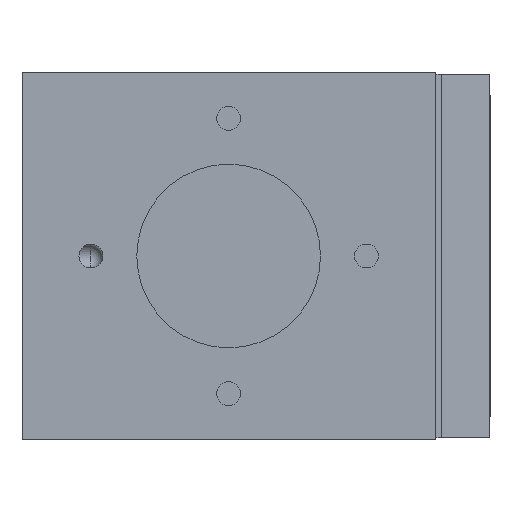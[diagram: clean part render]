
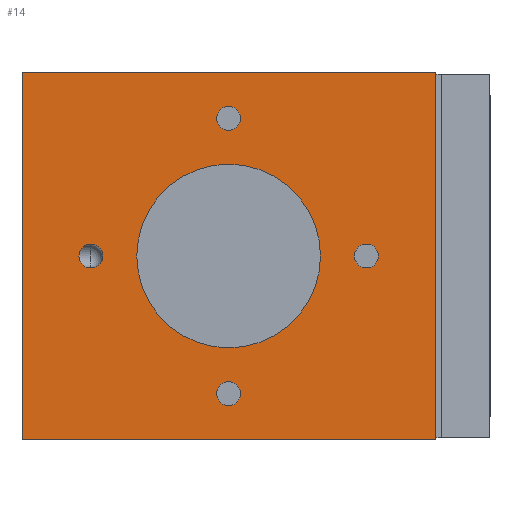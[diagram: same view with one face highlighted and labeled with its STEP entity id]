
A CAD part, front view. The second image highlights one B-rep face of the part: STEP entity #14.
In plain terms, the highlighted planar face has unit normal (0, -1, 0).
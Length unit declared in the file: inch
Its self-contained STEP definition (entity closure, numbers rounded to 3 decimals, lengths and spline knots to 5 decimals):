
#14 = ADVANCED_FACE ( 'NONE', ( #1647, #18195, #5406, #5907, #1148, #17682 ), #19566, .F. ) ;
#105 = DIRECTION ( 'NONE',  ( 0., 0., -1. ) ) ;
#328 = ORIENTED_EDGE ( 'NONE', *, *, #4270, .F. ) ;
#385 = DIRECTION ( 'NONE',  ( 1., 0., 0. ) ) ;
#750 = VERTEX_POINT ( 'NONE', #9078 ) ;
#806 = EDGE_CURVE ( 'NONE', #11481, #750, #10409, .T. ) ;
#883 = ORIENTED_EDGE ( 'NONE', *, *, #20180, .F. ) ;
#1063 = DIRECTION ( 'NONE',  ( 0., 0., -1. ) ) ;
#1148 = FACE_BOUND ( 'NONE', #5466, .T. ) ;
#1352 = CARTESIAN_POINT ( 'NONE',  ( -8.84048, -0.975, -0.75 ) ) ;
#1515 = VERTEX_POINT ( 'NONE', #18848 ) ;
#1647 = FACE_BOUND ( 'NONE', #1880, .T. ) ;
#1776 = DIRECTION ( 'NONE',  ( 0., -1., 0. ) ) ;
#1880 = EDGE_LOOP ( 'NONE', ( #17355, #16960 ) ) ;
#2181 = ORIENTED_EDGE ( 'NONE', *, *, #11049, .F. ) ;
#2223 = EDGE_CURVE ( 'NONE', #3195, #7584, #5427, .T. ) ;
#2254 = CIRCLE ( 'NONE', #6998, 0.065 ) ;
#2365 = VERTEX_POINT ( 'NONE', #17238 ) ;
#2475 = EDGE_LOOP ( 'NONE', ( #328, #883 ) ) ;
#2799 = CARTESIAN_POINT ( 'NONE',  ( -8.09048, -0.975, 0. ) ) ;
#2867 = AXIS2_PLACEMENT_3D ( 'NONE', #9871, #17928, #11571 ) ;
#2975 = DIRECTION ( 'NONE',  ( 0., 0., -1. ) ) ;
#3079 = ORIENTED_EDGE ( 'NONE', *, *, #11836, .F. ) ;
#3195 = VERTEX_POINT ( 'NONE', #16921 ) ;
#3314 = VECTOR ( 'NONE', #385, 39.37008 ) ;
#3755 = CARTESIAN_POINT ( 'NONE',  ( -8.84048, -0.975, 0.5 ) ) ;
#4141 = EDGE_CURVE ( 'NONE', #2365, #13123, #17739, .T. ) ;
#4270 = EDGE_CURVE ( 'NONE', #6647, #6812, #7027, .T. ) ;
#4411 = DIRECTION ( 'NONE',  ( 0., 0., -1. ) ) ;
#4768 = EDGE_CURVE ( 'NONE', #13696, #6535, #2254, .T. ) ;
#5129 = CARTESIAN_POINT ( 'NONE',  ( -8.84048, -0.975, 0.75 ) ) ;
#5279 = CARTESIAN_POINT ( 'NONE',  ( -8.84048, -0.975, 0.815 ) ) ;
#5388 = CARTESIAN_POINT ( 'NONE',  ( -9.96548, -0.975, 1. ) ) ;
#5406 = FACE_BOUND ( 'NONE', #17867, .T. ) ;
#5427 = LINE ( 'NONE', #18650, #11956 ) ;
#5466 = EDGE_LOOP ( 'NONE', ( #10002, #12545 ) ) ;
#5606 = AXIS2_PLACEMENT_3D ( 'NONE', #18014, #8393, #19646 ) ;
#5811 = DIRECTION ( 'NONE',  ( 0., 0., -1. ) ) ;
#5862 = VERTEX_POINT ( 'NONE', #12111 ) ;
#5907 = FACE_BOUND ( 'NONE', #7343, .T. ) ;
#5935 = LINE ( 'NONE', #10662, #10712 ) ;
#5975 = CIRCLE ( 'NONE', #11118, 0.065 ) ;
#6535 = VERTEX_POINT ( 'NONE', #17550 ) ;
#6647 = VERTEX_POINT ( 'NONE', #14562 ) ;
#6756 = DIRECTION ( 'NONE',  ( 0., 0., -1. ) ) ;
#6788 = CARTESIAN_POINT ( 'NONE',  ( -7.71548, -0.975, -1. ) ) ;
#6812 = VERTEX_POINT ( 'NONE', #5279 ) ;
#6902 = EDGE_CURVE ( 'NONE', #15906, #14715, #14622, .T. ) ;
#6998 = AXIS2_PLACEMENT_3D ( 'NONE', #7636, #18864, #9247 ) ;
#7002 = DIRECTION ( 'NONE',  ( 1., 0., 0. ) ) ;
#7027 = CIRCLE ( 'NONE', #19626, 0.065 ) ;
#7298 = CARTESIAN_POINT ( 'NONE',  ( -9.59048, -0.975, 0.065 ) ) ;
#7343 = EDGE_LOOP ( 'NONE', ( #2181, #20250 ) ) ;
#7584 = VERTEX_POINT ( 'NONE', #6788 ) ;
#7636 = CARTESIAN_POINT ( 'NONE',  ( -8.84048, -0.975, -0.75 ) ) ;
#8338 = CARTESIAN_POINT ( 'NONE',  ( -8.84048, -0.975, 0.75 ) ) ;
#8393 = DIRECTION ( 'NONE',  ( 0., -1., 0. ) ) ;
#8483 = AXIS2_PLACEMENT_3D ( 'NONE', #2799, #14025, #4411 ) ;
#8889 = DIRECTION ( 'NONE',  ( 0., -1., 0. ) ) ;
#9078 = CARTESIAN_POINT ( 'NONE',  ( -8.09048, -0.975, -0.065 ) ) ;
#9117 = DIRECTION ( 'NONE',  ( 0., -1., 0. ) ) ;
#9247 = DIRECTION ( 'NONE',  ( 0., 0., -1. ) ) ;
#9692 = DIRECTION ( 'NONE',  ( 0., -1., 0. ) ) ;
#9871 = CARTESIAN_POINT ( 'NONE',  ( -9.96548, -0.975, 1. ) ) ;
#9961 = DIRECTION ( 'NONE',  ( 0., 0., -1. ) ) ;
#9973 = ORIENTED_EDGE ( 'NONE', *, *, #15994, .T. ) ;
#10002 = ORIENTED_EDGE ( 'NONE', *, *, #10908, .F. ) ;
#10080 = ORIENTED_EDGE ( 'NONE', *, *, #2223, .F. ) ;
#10409 = CIRCLE ( 'NONE', #8483, 0.065 ) ;
#10649 = EDGE_CURVE ( 'NONE', #13123, #2365, #19188, .T. ) ;
#10662 = CARTESIAN_POINT ( 'NONE',  ( -9.96548, -0.975, 1. ) ) ;
#10712 = VECTOR ( 'NONE', #1063, 39.37008 ) ;
#10714 = AXIS2_PLACEMENT_3D ( 'NONE', #18748, #9117, #20366 ) ;
#10908 = EDGE_CURVE ( 'NONE', #14715, #15906, #15721, .T. ) ;
#10971 = ORIENTED_EDGE ( 'NONE', *, *, #10649, .F. ) ;
#11037 = AXIS2_PLACEMENT_3D ( 'NONE', #19300, #9692, #105 ) ;
#11049 = EDGE_CURVE ( 'NONE', #750, #11481, #20228, .T. ) ;
#11118 = AXIS2_PLACEMENT_3D ( 'NONE', #1352, #12591, #2975 ) ;
#11381 = CARTESIAN_POINT ( 'NONE',  ( -9.59048, -0.975, 0. ) ) ;
#11481 = VERTEX_POINT ( 'NONE', #15928 ) ;
#11488 = AXIS2_PLACEMENT_3D ( 'NONE', #18511, #8889, #20136 ) ;
#11571 = DIRECTION ( 'NONE',  ( 0., 0., 1. ) ) ;
#11836 = EDGE_CURVE ( 'NONE', #1515, #3195, #18423, .T. ) ;
#11903 = CARTESIAN_POINT ( 'NONE',  ( -8.84048, -0.975, -0.685 ) ) ;
#11956 = VECTOR ( 'NONE', #5811, 39.37008 ) ;
#12111 = CARTESIAN_POINT ( 'NONE',  ( -9.96548, -0.975, -1. ) ) ;
#12545 = ORIENTED_EDGE ( 'NONE', *, *, #6902, .F. ) ;
#12591 = DIRECTION ( 'NONE',  ( 0., -1., 0. ) ) ;
#13009 = DIRECTION ( 'NONE',  ( 0., 0., -1. ) ) ;
#13123 = VERTEX_POINT ( 'NONE', #3755 ) ;
#13696 = VERTEX_POINT ( 'NONE', #11903 ) ;
#13922 = CARTESIAN_POINT ( 'NONE',  ( -9.59048, -0.975, -0.065 ) ) ;
#14025 = DIRECTION ( 'NONE',  ( 0., -1., 0. ) ) ;
#14562 = CARTESIAN_POINT ( 'NONE',  ( -8.84048, -0.975, 0.685 ) ) ;
#14622 = CIRCLE ( 'NONE', #11488, 0.065 ) ;
#14715 = VERTEX_POINT ( 'NONE', #13922 ) ;
#14749 = AXIS2_PLACEMENT_3D ( 'NONE', #8338, #19588, #9961 ) ;
#14822 = EDGE_CURVE ( 'NONE', #6535, #13696, #5975, .T. ) ;
#14951 = EDGE_LOOP ( 'NONE', ( #9973, #16591, #10080, #3079 ) ) ;
#15267 = CIRCLE ( 'NONE', #14749, 0.065 ) ;
#15697 = AXIS2_PLACEMENT_3D ( 'NONE', #11381, #1776, #13009 ) ;
#15721 = CIRCLE ( 'NONE', #15697, 0.065 ) ;
#15906 = VERTEX_POINT ( 'NONE', #7298 ) ;
#15928 = CARTESIAN_POINT ( 'NONE',  ( -8.09048, -0.975, 0.065 ) ) ;
#15994 = EDGE_CURVE ( 'NONE', #1515, #5862, #5935, .T. ) ;
#16100 = LINE ( 'NONE', #19594, #3314 ) ;
#16367 = DIRECTION ( 'NONE',  ( 0., -1., 0. ) ) ;
#16591 = ORIENTED_EDGE ( 'NONE', *, *, #17370, .T. ) ;
#16921 = CARTESIAN_POINT ( 'NONE',  ( -7.71548, -0.975, 1. ) ) ;
#16960 = ORIENTED_EDGE ( 'NONE', *, *, #4768, .F. ) ;
#17238 = CARTESIAN_POINT ( 'NONE',  ( -8.84048, -0.975, -0.5 ) ) ;
#17355 = ORIENTED_EDGE ( 'NONE', *, *, #14822, .F. ) ;
#17370 = EDGE_CURVE ( 'NONE', #5862, #7584, #16100, .T. ) ;
#17550 = CARTESIAN_POINT ( 'NONE',  ( -8.84048, -0.975, -0.815 ) ) ;
#17682 = FACE_OUTER_BOUND ( 'NONE', #14951, .T. ) ;
#17739 = CIRCLE ( 'NONE', #11037, 0.5 ) ;
#17867 = EDGE_LOOP ( 'NONE', ( #18193, #10971 ) ) ;
#17903 = VECTOR ( 'NONE', #7002, 39.37008 ) ;
#17928 = DIRECTION ( 'NONE',  ( 0., 1., 0. ) ) ;
#18014 = CARTESIAN_POINT ( 'NONE',  ( -8.09048, -0.975, 0. ) ) ;
#18193 = ORIENTED_EDGE ( 'NONE', *, *, #4141, .F. ) ;
#18195 = FACE_BOUND ( 'NONE', #2475, .T. ) ;
#18423 = LINE ( 'NONE', #5388, #17903 ) ;
#18511 = CARTESIAN_POINT ( 'NONE',  ( -9.59048, -0.975, 0. ) ) ;
#18650 = CARTESIAN_POINT ( 'NONE',  ( -7.71548, -0.975, 1. ) ) ;
#18748 = CARTESIAN_POINT ( 'NONE',  ( -8.84048, -0.975, 0. ) ) ;
#18848 = CARTESIAN_POINT ( 'NONE',  ( -9.96548, -0.975, 1. ) ) ;
#18864 = DIRECTION ( 'NONE',  ( 0., -1., 0. ) ) ;
#19188 = CIRCLE ( 'NONE', #10714, 0.5 ) ;
#19300 = CARTESIAN_POINT ( 'NONE',  ( -8.84048, -0.975, 0. ) ) ;
#19566 = PLANE ( 'NONE',  #2867 ) ;
#19588 = DIRECTION ( 'NONE',  ( 0., -1., 0. ) ) ;
#19594 = CARTESIAN_POINT ( 'NONE',  ( -9.96548, -0.975, -1. ) ) ;
#19626 = AXIS2_PLACEMENT_3D ( 'NONE', #5129, #16367, #6756 ) ;
#19646 = DIRECTION ( 'NONE',  ( 0., 0., -1. ) ) ;
#20136 = DIRECTION ( 'NONE',  ( 0., 0., -1. ) ) ;
#20180 = EDGE_CURVE ( 'NONE', #6812, #6647, #15267, .T. ) ;
#20228 = CIRCLE ( 'NONE', #5606, 0.065 ) ;
#20250 = ORIENTED_EDGE ( 'NONE', *, *, #806, .F. ) ;
#20366 = DIRECTION ( 'NONE',  ( 0., 0., -1. ) ) ;
